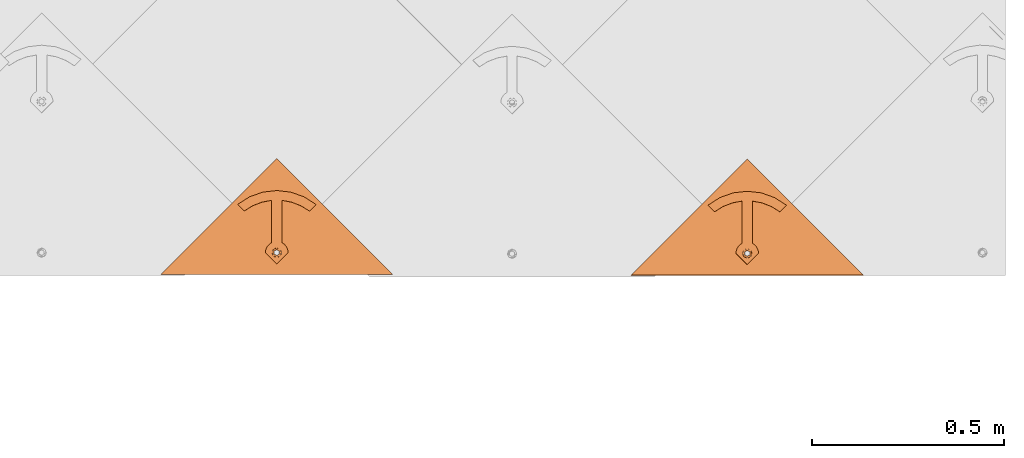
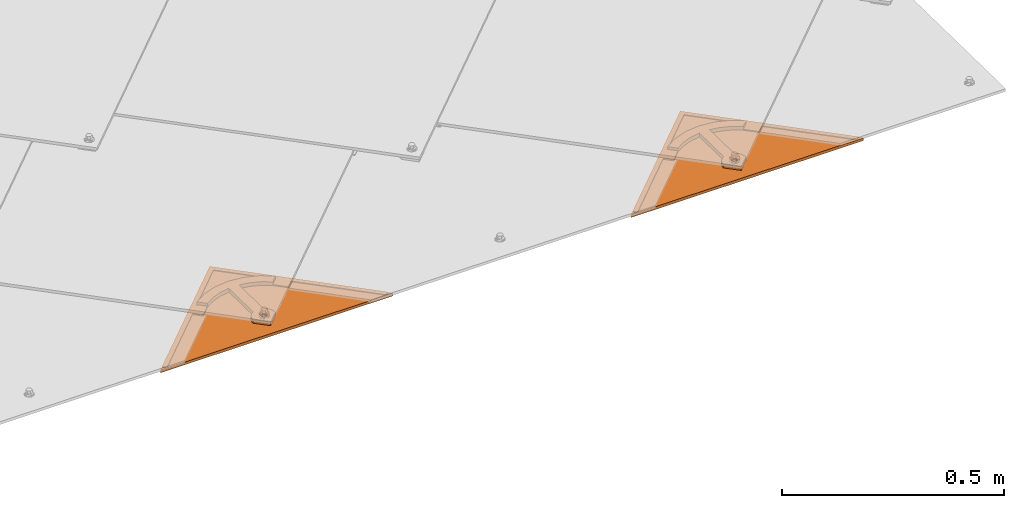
# One storey, part 117 of 151: 2 proxies.
"""IFC2X3 building model written with IfcOpenShell, lengths in millimetres."""

import ifcopenshell
import ifcopenshell.guid

model = None  # the IFC model being written
_history = None  # IfcOwnerHistory: only IFC2X3 demands one
_inside = {}  # id of a spatial element -> (the spatial element, [elements in it])
_under = {}  # id of a project, library or spatial element -> (it, [spatial elements below it])
_declared = {}  # id of a project -> (the project, [libraries it declares])
_typed = {}  # id of a type object -> (the type object, [elements of that type])
_made_of = {}  # id of a material, layer set ... -> (it, [elements and type objects made of it])


def new_model(schema):
    """Start an empty IFC model of exactly this schema.

    Asked for "IFC4X3", IfcOpenShell would pick the latest addendum, in which some entities
    have other attributes; the version numbers below select the first issue.
    IFC2X3 requires an IfcOwnerHistory on every rooted entity: one is made here for all.
    """
    global model, _history
    if schema == "IFC4X3":
        model = ifcopenshell.file(schema_version=(4, 3, 0, 0))
    else:
        model = ifcopenshell.file(schema=schema)
    _inside.clear()
    _under.clear()
    _declared.clear()
    _typed.clear()
    _made_of.clear()
    _history = None
    if model.schema == "IFC2X3":
        org = make("IfcOrganization", Name="unknown")
        user = make(
            "IfcPersonAndOrganization",
            ThePerson=make("IfcPerson", FamilyName="unknown"),
            TheOrganization=org,
        )
        app = make(
            "IfcApplication",
            ApplicationDeveloper=org,
            Version="unknown",
            ApplicationFullName="unknown",
            ApplicationIdentifier="unknown",
        )
        _history = make(
            "IfcOwnerHistory",
            OwningUser=user,
            OwningApplication=app,
            ChangeAction="ADDED",
            CreationDate=0,
        )
    return model


def make(cls, **values):
    """One entity of the class cls with the attributes given. An attribute that is None is left unset."""
    return model.create_entity(
        cls, **{name: value for name, value in values.items() if value is not None}
    )


def entity(cls, *values):
    """Any entity or typed value of the class cls, its attributes in the order of the schema. None: left unset."""
    e = model.create_entity(cls)
    for i, value in enumerate(values):
        if value is not None:
            e[i] = value
    return e


def rooted(cls, **values):
    """An entity with a GlobalId (a new one), such as an element, a storey or a relation."""
    return make(cls, GlobalId=ifcopenshell.guid.new(), OwnerHistory=_history, **values)


def si_unit(unit_type, name, prefix=None):
    """IfcSIUnit, for example si_unit("LENGTHUNIT", "METRE", prefix="MILLI")."""
    return make("IfcSIUnit", UnitType=unit_type, Prefix=prefix, Name=name)


def converted_unit(unit_type, name, factor, base, dimensions=None, offset=None):
    """IfcConversionBasedUnit, such as the inch: factor (a typed value) times the base unit."""
    return make(
        "IfcConversionBasedUnit"
        if offset is None
        else "IfcConversionBasedUnitWithOffset",
        ConversionOffset=offset,
        Dimensions=None
        if dimensions is None
        else entity("IfcDimensionalExponents", *dimensions),
        UnitType=unit_type,
        Name=name,
        ConversionFactor=make(
            "IfcMeasureWithUnit", ValueComponent=factor, UnitComponent=base
        ),
    )


def derived_unit(unit_type, elements):
    """IfcDerivedUnit: a product of units, each with its exponent."""
    return make(
        "IfcDerivedUnit",
        Elements=[
            make("IfcDerivedUnitElement", Unit=unit, Exponent=power)
            for unit, power in elements
        ],
        UnitType=unit_type,
    )


def assignment(units):
    """IfcUnitAssignment: the units of a project."""
    return None if units is None else make("IfcUnitAssignment", Units=units)


def point(xyz):
    """IfcCartesianPoint."""
    return None if xyz is None else make("IfcCartesianPoint", Coordinates=xyz)


def direction(xyz):
    """IfcDirection."""
    return None if xyz is None else make("IfcDirection", DirectionRatios=xyz)


def frame(location, z_axis=None, x_axis=None):
    """IfcAxis2Placement3D, a coordinate frame: its origin and axes. An axis left out is left unset."""
    return make(
        "IfcAxis2Placement3D",
        Location=point(location),
        Axis=direction(z_axis),
        RefDirection=direction(x_axis),
    )


def origin():
    """The frame at (0, 0, 0) with its axes left unset."""
    return frame((0.0, 0.0, 0.0))


def place(relative_to, where):
    """IfcLocalPlacement: puts the frame where relative to a parent placement (None: the world)."""
    return make(
        "IfcLocalPlacement", PlacementRelTo=relative_to, RelativePlacement=where
    )


def context(
    kind, dimensions, precision=None, world=None, true_north=None, identifier=None
):
    """IfcGeometricRepresentationContext, for example the 3D "Model" context."""
    return make(
        "IfcGeometricRepresentationContext",
        ContextIdentifier=identifier,
        ContextType=kind,
        CoordinateSpaceDimension=dimensions,
        Precision=precision,
        WorldCoordinateSystem=world,
        TrueNorth=true_north,
    )


def subcontext(parent, identifier, kind, view, scale=None):
    """IfcGeometricRepresentationSubContext, for example "Body" below "Model"."""
    return make(
        "IfcGeometricRepresentationSubContext",
        ContextIdentifier=identifier,
        ContextType=kind,
        ParentContext=parent,
        TargetScale=scale,
        TargetView=view,
    )


def project(units=None, contexts=None):
    """IfcProject with its units and contexts."""
    return rooted(
        "IfcProject",
        Name="project",
        RepresentationContexts=contexts,
        UnitsInContext=assignment(units),
    )


def spatial(cls, under=None, at=None, **own):
    """A site, building, storey or space (cls), placed at a placement, below another one or the project."""
    s = rooted(cls, ObjectPlacement=at, **own)
    if under is not None:
        _under.setdefault(under.id(), (under, []))[1].append(s)
    return s


def faces_of(points, faces, orient=None, outer=None):
    """IfcFace entities. A face is a list of loops; a loop is a list of indices into points, from 0.

    orient and outer hold one flag for each loop. By default every Orientation is true, the
    first loop of a face is its IfcFaceOuterBound and the others are IfcFaceBound.
    """
    made = []
    for i, loops in enumerate(faces):
        bounds = []
        for j, loop in enumerate(loops):
            is_outer = j == 0 if outer is None else outer[i][j]
            bounds.append(
                make(
                    "IfcFaceOuterBound" if is_outer else "IfcFaceBound",
                    Bound=make("IfcPolyLoop", Polygon=[points[k] for k in loop]),
                    Orientation=True if orient is None else orient[i][j],
                )
            )
        made.append(make("IfcFace", Bounds=bounds))
    return made


def faceted_brep(points, faces, orient=None, outer=None, voids=None):
    """IfcFacetedBrep: a solid bounded by flat faces; with voids (closed shells), ...WithVoids."""
    shared = [point(p) for p in points]
    hull = make("IfcClosedShell", CfsFaces=faces_of(shared, faces, orient, outer))
    if voids is None:
        return make("IfcFacetedBrep", Outer=hull)
    return make(
        "IfcFacetedBrepWithVoids",
        Outer=hull,
        Voids=[
            make(cls, CfsFaces=faces_of(shared, fs, o, b)) for cls, fs, o, b in voids
        ],
    )


def shape(context_of_items, identifier, shape_type, items):
    """IfcShapeRepresentation: the items that make up one representation, for example the "Body"."""
    return make(
        "IfcShapeRepresentation",
        ContextOfItems=context_of_items,
        RepresentationIdentifier=identifier,
        RepresentationType=shape_type,
        Items=items,
    )


def source(mapping_origin, context_of_items, identifier, shape_type, items):
    """IfcRepresentationMap: a shape defined once, which mapped items show again and again."""
    return make(
        "IfcRepresentationMap",
        MappingOrigin=mapping_origin,
        MappedRepresentation=shape(context_of_items, identifier, shape_type, items),
    )


def transform(
    local_origin,
    x_axis=None,
    y_axis=None,
    z_axis=None,
    scale=None,
    scale2=None,
    scale3=None,
    uniform=True,
):
    """IfcCartesianTransformationOperator3D, or its non-uniform kind. x_axis, y_axis, z_axis: its Axis1, 2, 3."""
    if uniform:
        return make(
            "IfcCartesianTransformationOperator3D",
            Axis1=direction(x_axis),
            Axis2=direction(y_axis),
            LocalOrigin=point(local_origin),
            Scale=scale,
            Axis3=direction(z_axis),
        )
    return make(
        "IfcCartesianTransformationOperator3DnonUniform",
        Axis1=direction(x_axis),
        Axis2=direction(y_axis),
        LocalOrigin=point(local_origin),
        Scale=scale,
        Axis3=direction(z_axis),
        Scale2=scale2,
        Scale3=scale3,
    )


def mapped(mapping_source, mapping_target):
    """IfcMappedItem: shows the shape of a source again, moved by a transform."""
    return make(
        "IfcMappedItem", MappingSource=mapping_source, MappingTarget=mapping_target
    )


def material(Name=None, Category=None):
    """IfcMaterial."""
    return make("IfcMaterial", Name=Name, Category=Category)


def material_list(materials):
    """IfcMaterialList."""
    return make("IfcMaterialList", Materials=materials)


def made_of(thing, what):
    """Note that an element or type object is made of a material, layer set ...; save() writes the relation."""
    if what is not None:
        _made_of.setdefault(what.id(), (what, []))[1].append(thing)
    return thing


def type_object(cls, material=None, **own):
    """A type object (cls), such as IfcWallType, which elements share."""
    return made_of(rooted(cls, **own), material)


def type_shapes(of_type, sources):
    """Give a type object the sources (RepresentationMaps) that its elements show as mapped items."""
    of_type.RepresentationMaps = sources


def element(
    cls,
    number,
    at=None,
    inside=None,
    cuts=None,
    type_object=None,
    material=None,
    context=None,
    identifier="Body",
    shape_type=None,
    held_by="IfcProductDefinitionShape",
    body=None,
    shapes=None,
    **own,
):
    """One element of the class cls, such as IfcWall. Its Tag is "e" and its number.

    at: its placement. inside: the storey or other place that contains it. cuts: it is an
    opening in that element (IfcRelVoidsElement). A single representation is given by context,
    identifier, shape_type and body (its items); several are given by shapes. held_by: the class
    of the entity that holds the representations. save() writes the other relations.
    """
    e = rooted(cls, Tag="e%d" % number, ObjectPlacement=at, **own)
    if body is not None:
        shapes = [shape(context, identifier, shape_type, body)]
    if shapes is not None:
        e.Representation = make(held_by, Representations=shapes)
    if inside is not None:
        _inside.setdefault(inside.id(), (inside, []))[1].append(e)
    if cuts is not None:
        rooted(
            "IfcRelVoidsElement", RelatingBuildingElement=cuts, RelatedOpeningElement=e
        )
    if type_object is not None:
        _typed.setdefault(type_object.id(), (type_object, []))[1].append(e)
    return made_of(e, material)


def aggregate(whole, parts):
    """IfcRelAggregates: a whole, such as a stair, and the parts it consists of."""
    return rooted("IfcRelAggregates", RelatingObject=whole, RelatedObjects=parts)


def save(model, path):
    """Write the relations noted so far, then the file.

    IfcRelAggregates (storeys below a building ...), IfcRelContainedInSpatialStructure (elements
    in a storey), IfcRelDefinesByType, IfcRelAssociatesMaterial and IfcRelDeclares: one each for
    every whole, place, type object, material and project.
    """
    for whole, parts in _under.values():
        aggregate(whole, parts)
    for where, things in _inside.values():
        rooted(
            "IfcRelContainedInSpatialStructure",
            RelatedElements=things,
            RelatingStructure=where,
        )
    for kind, things in _typed.values():
        rooted("IfcRelDefinesByType", RelatedObjects=things, RelatingType=kind)
    for what, things in _made_of.values():
        rooted("IfcRelAssociatesMaterial", RelatedObjects=things, RelatingMaterial=what)
    for by, libraries in _declared.values():
        rooted("IfcRelDeclares", RelatingContext=by, RelatedDefinitions=libraries)
    model.write(path)


model = new_model("IFC2X3")

# Units and contexts
model_context = context("Model", 3, precision=0.01, world=origin(), true_north=direction((6.12303176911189e-17, 1.0)))
body_context = subcontext(model_context, "Body", "Model", "MODEL_VIEW")
ifc_project = project(units=[si_unit("LENGTHUNIT", "METRE", prefix="MILLI"), si_unit("AREAUNIT", "SQUARE_METRE"), si_unit("VOLUMEUNIT", "CUBIC_METRE"), converted_unit("PLANEANGLEUNIT", "DEGREE", entity("IfcRatioMeasure", 0.0174532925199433), si_unit("PLANEANGLEUNIT", "RADIAN"), dimensions=[0, 0, 0, 0, 0, 0, 0]), si_unit("MASSUNIT", "GRAM", prefix="KILO"), derived_unit("MASSDENSITYUNIT", [(si_unit("MASSUNIT", "GRAM", prefix="KILO"), 1), (si_unit("LENGTHUNIT", "METRE"), -3)]), si_unit("TIMEUNIT", "SECOND"), si_unit("FREQUENCYUNIT", "HERTZ"), si_unit("THERMODYNAMICTEMPERATUREUNIT", "DEGREE_CELSIUS"), derived_unit("THERMALTRANSMITTANCEUNIT", [(si_unit("MASSUNIT", "GRAM", prefix="KILO"), 1), (si_unit("THERMODYNAMICTEMPERATUREUNIT", "KELVIN"), -1), (si_unit("TIMEUNIT", "SECOND"), -3)]), derived_unit("VOLUMETRICFLOWRATEUNIT", [(si_unit("LENGTHUNIT", "METRE"), 3), (si_unit("TIMEUNIT", "SECOND"), -1)]), si_unit("ELECTRICCURRENTUNIT", "AMPERE"), si_unit("ELECTRICVOLTAGEUNIT", "VOLT"), si_unit("POWERUNIT", "WATT"), si_unit("FORCEUNIT", "NEWTON", prefix="KILO"), si_unit("ILLUMINANCEUNIT", "LUX"), si_unit("LUMINOUSFLUXUNIT", "LUMEN"), si_unit("LUMINOUSINTENSITYUNIT", "CANDELA"), derived_unit("USERDEFINED", [(si_unit("MASSUNIT", "GRAM", prefix="KILO"), -1), (si_unit("LENGTHUNIT", "METRE"), -2), (si_unit("TIMEUNIT", "SECOND"), 3), (si_unit("LUMINOUSFLUXUNIT", "LUMEN"), 1)]), derived_unit("LINEARVELOCITYUNIT", [(si_unit("LENGTHUNIT", "METRE"), 1), (si_unit("TIMEUNIT", "SECOND"), -1)]), si_unit("PRESSUREUNIT", "PASCAL"), derived_unit("USERDEFINED", [(si_unit("LENGTHUNIT", "METRE"), -2), (si_unit("MASSUNIT", "GRAM", prefix="KILO"), 1), (si_unit("TIMEUNIT", "SECOND"), -2)])], contexts=[model_context])

# Site, building, storey
site_placement = place(None, origin())
site = spatial("IfcSite", under=ifc_project, at=site_placement, Name="Default", CompositionType="ELEMENT")
building_placement = place(site_placement, origin())
building = spatial("IfcBuilding", under=site, at=building_placement, CompositionType="ELEMENT")
storey_placement = place(building_placement, origin())
storey = spatial("IfcBuildingStorey", under=building, at=storey_placement, Name="Level 1", CompositionType="ELEMENT", Elevation=0.0)

# Proxies
ifc_material_1 = material(Name="Rubber - Sunstyle - Black")
ifc_material_2 = material(Name="Glass - Sunstyle - Tainted Black")
ifc_material_list_1 = material_list([ifc_material_1, ifc_material_2])
ifc_material_list_2 = material_list([ifc_material_1, ifc_material_2])
building_element_proxy_type = type_object("IfcBuildingElementProxyType", Name="Shingle Bottom Small - Black", PredefinedType="NOTDEFINED", material=ifc_material_list_2)
shared_shape = source(origin(), body_context, "Body", "Brep", [
    faceted_brep([(302.08842791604, 44.9093317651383, 22.0558382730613), (302.08842791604, 49.408700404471, 21.980485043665), (293.484723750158, 48.4726030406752, 21.9961623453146), (310.692132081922, 48.4726030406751, 21.9961623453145), (308.728656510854, 53.2419006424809, 21.9162884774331), (314.255903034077, 57.0751008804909, 21.8520919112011), (308.728656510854, 60.9083011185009, 21.7878953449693), (310.692132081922, 65.6775987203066, 21.7080214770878), (302.08842791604, 64.7415013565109, 21.7236987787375), (302.08842791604, 69.2408699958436, 21.6483455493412), (293.484723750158, 65.6775987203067, 21.708021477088), (295.448199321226, 60.908301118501, 21.7878953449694), (289.920952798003, 57.0751008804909, 21.8520919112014), (295.448199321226, 53.2419006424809, 21.9162884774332), (295.448199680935, 60.6403782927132, 5.79013870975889), (302.08842791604, 64.473578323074, 5.72594214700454), (295.448199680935, 52.9739782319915, 5.91853183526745), (302.08842791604, 49.1407782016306, 5.98272839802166), (308.728656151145, 52.9739782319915, 5.91853183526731), (308.728656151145, 60.6403782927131, 5.79013870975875), (293.484723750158, 48.2046804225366, 5.99840570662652), (302.08842791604, 44.6414091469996, 6.05808163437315), (289.920952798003, 56.8071782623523, 5.85433527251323), (293.484723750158, 65.4096761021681, 5.71026483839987), (302.08842791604, 68.972947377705, 5.65058891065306), (310.692132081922, 65.409676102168, 5.71026483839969), (314.255903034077, 56.8071782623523, 5.85433527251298), (310.692132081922, 48.2046804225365, 5.99840570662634)], [[[0, 1, 2]], [[1, 0, 3]], [[3, 4, 1]], [[4, 3, 5]], [[6, 4, 5]], [[5, 7, 6]], [[7, 8, 6]], [[8, 7, 9]], [[8, 9, 10]], [[10, 11, 8]], [[12, 11, 10]], [[2, 13, 12]], [[12, 13, 11]], [[13, 2, 1]], [[8, 11, 14, 15]], [[11, 13, 16, 14]], [[13, 1, 17, 16]], [[1, 4, 18, 17]], [[4, 6, 19, 18]], [[6, 8, 15, 19]], [[20, 17, 21]], [[17, 20, 16]], [[22, 16, 20]], [[14, 16, 22]], [[23, 14, 22]], [[15, 14, 23]], [[23, 24, 15]], [[24, 25, 15]], [[19, 15, 25]], [[19, 25, 26]], [[26, 18, 19]], [[26, 27, 18]], [[17, 18, 27]], [[27, 21, 17]], [[24, 23, 10, 9]], [[10, 23, 22, 12]], [[20, 21, 0, 2]], [[20, 2, 12, 22]], [[21, 27, 3, 0]], [[3, 27, 26, 5]], [[25, 24, 9, 7]], [[25, 7, 5, 26]]]),
    faceted_brep([(587.35835892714, 0.0, 12.5593198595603), (595.843045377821, 8.4846864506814, 12.4172224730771), (595.843045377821, 8.50980419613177, 13.9170121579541), (587.35835892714, 0.0251177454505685, 14.0591095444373), (302.088750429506, 285.189618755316, 7.7831033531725), (16.8191419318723, 0.0, 12.5593198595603), (8.33445548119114, 8.48468645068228, 12.4172224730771), (302.088750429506, 302.156612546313, 7.49894842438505), (302.088750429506, 302.181730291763, 8.9987381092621), (8.33445548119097, 8.50980419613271, 13.9170121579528), (16.8191419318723, 0.0251177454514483, 14.0591095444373), (302.088750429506, 285.214736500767, 9.28289303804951)], [[[0, 1, 2, 3]], [[1, 0, 4, 5, 6, 7]], [[2, 1, 7, 8]], [[3, 2, 8, 9, 10, 11]], [[0, 3, 11, 4]], [[5, 10, 9, 6]], [[8, 7, 6, 9]], [[4, 11, 10, 5]]]),
    faceted_brep([(302.088750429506, 302.156612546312, 7.49894842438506), (305.194256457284, 68.3255429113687, 11.4150370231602), (308.088427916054, 67.1269059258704, 11.4351112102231), (302.088427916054, 68.7343756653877, 11.4081900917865), (310.573709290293, 65.2201498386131, 11.4670446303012), (298.982599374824, 68.3255429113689, 11.4150370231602), (296.088427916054, 67.1269059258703, 11.4351112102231), (293.603146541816, 65.2201498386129, 11.4670446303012), (312.480732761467, 62.7352169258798, 11.5086610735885), (604.177500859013, 0.152567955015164, 12.5567647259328), (291.696123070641, 62.7352169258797, 11.5086610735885), (0.0, 0.152567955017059, 12.5567647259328), (290.497318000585, 59.8414512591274, 11.5571244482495), (290.088427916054, 56.7360581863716, 11.6091320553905), (290.497318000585, 53.6306651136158, 11.6611396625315), (291.696123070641, 50.7368994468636, 11.7096030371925), (293.603146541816, 48.2519665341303, 11.7512194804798), (296.088427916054, 46.3452104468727, 11.7831529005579), (298.982599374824, 45.1465734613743, 11.8032270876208), (302.088427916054, 44.7377407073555, 11.8100740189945), (313.679537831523, 59.8414512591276, 11.5571244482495), (314.088427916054, 56.7360581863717, 11.6091320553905), (313.679537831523, 53.6306651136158, 11.6611396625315), (312.480732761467, 50.7368994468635, 11.7096030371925), (310.573709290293, 48.2519665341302, 11.7512194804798), (308.088427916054, 46.3452104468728, 11.7831529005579), (305.194256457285, 45.1465734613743, 11.8032270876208), (0.0, 0.0269792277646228, 5.0578163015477), (290.088427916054, 56.6104694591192, 4.11018363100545), (290.497318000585, 53.5050763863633, 4.16219123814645), (290.497318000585, 59.7158625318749, 4.05817602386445), (291.696123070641, 50.6113107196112, 4.21065461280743), (291.696123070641, 62.6096281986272, 4.00971264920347), (302.088750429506, 302.031023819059, 0.0), (293.603146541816, 48.1263778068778, 4.25227105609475), (296.088427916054, 46.2196217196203, 4.28420447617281), (298.982599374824, 45.0209847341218, 4.30427866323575), (302.088427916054, 44.612151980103, 4.31112559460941), (604.177500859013, 0.0269792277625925, 5.05781630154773), (293.603146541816, 65.0945611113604, 3.96809620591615), (296.088427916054, 67.0013171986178, 3.93616278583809), (298.982599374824, 68.1999541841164, 3.91608859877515), (302.088427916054, 68.6087869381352, 3.90924166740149), (305.194256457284, 68.1999541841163, 3.91608859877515), (308.088427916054, 67.0013171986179, 3.93616278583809), (310.573709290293, 65.0945611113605, 3.96809620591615), (312.480732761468, 62.6096281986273, 4.00971264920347), (305.194256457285, 45.0209847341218, 4.30427866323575), (308.088427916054, 46.2196217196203, 4.28420447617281), (313.679537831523, 59.7158625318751, 4.05817602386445), (314.088427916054, 56.6104694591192, 4.11018363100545), (313.679537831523, 53.5050763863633, 4.16219123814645), (312.480732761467, 50.611310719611, 4.21065461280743), (310.573709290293, 48.1263778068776, 4.25227105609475)], [[[0, 1, 2]], [[1, 0, 3]], [[0, 2, 4]], [[5, 3, 0]], [[6, 5, 0]], [[0, 7, 6]], [[8, 0, 4]], [[0, 8, 9]], [[7, 0, 10]], [[0, 11, 10]], [[12, 10, 11]], [[11, 13, 12]], [[13, 11, 14]], [[15, 14, 11]], [[11, 16, 15]], [[17, 16, 11]], [[17, 11, 18]], [[19, 18, 11]], [[19, 11, 9]], [[9, 8, 20]], [[20, 21, 9]], [[21, 22, 9]], [[22, 23, 9]], [[9, 23, 24]], [[24, 25, 9]], [[25, 26, 9]], [[9, 26, 19]], [[27, 28, 29]], [[28, 27, 30]], [[27, 29, 31]], [[32, 30, 27]], [[32, 27, 33]], [[31, 34, 27]], [[34, 35, 27]], [[35, 36, 27]], [[36, 37, 27]], [[27, 37, 38]], [[33, 39, 32]], [[40, 39, 33]], [[41, 40, 33]], [[42, 41, 33]], [[33, 43, 42]], [[43, 33, 44]], [[45, 44, 33]], [[33, 46, 45]], [[46, 33, 38]], [[38, 37, 47]], [[47, 48, 38]], [[49, 46, 38]], [[38, 50, 49]], [[50, 38, 51]], [[52, 51, 38]], [[53, 52, 38]], [[53, 38, 48]], [[11, 0, 33, 27]], [[0, 9, 38, 33]], [[13, 28, 30, 12]], [[12, 30, 32, 10]], [[6, 7, 39, 40]], [[39, 7, 10, 32]], [[5, 6, 40, 41]], [[5, 41, 42, 3]], [[3, 42, 43, 1]], [[1, 43, 44, 2]], [[8, 4, 45, 46]], [[45, 4, 2, 44]], [[20, 8, 46, 49]], [[20, 49, 50, 21]], [[21, 50, 51, 22]], [[22, 51, 52, 23]], [[25, 24, 53, 48]], [[53, 24, 23, 52]], [[26, 25, 48, 47]], [[26, 47, 37, 19]], [[19, 37, 36, 18]], [[18, 36, 35, 17]], [[15, 16, 34, 31]], [[34, 16, 17, 35]], [[14, 15, 31, 29]], [[14, 29, 28, 13]], [[9, 11, 27, 38]]]),
    faceted_brep([(190.819384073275, 138.646056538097, 12.7376939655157), (217.144031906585, 164.967013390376, 12.2968834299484), (200.060856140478, 182.04779392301, 12.0108228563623), (193.80845410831, 176.686146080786, 12.100617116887), (187.837458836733, 171.012871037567, 12.1956303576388), (173.141714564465, 156.321247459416, 12.4416784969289), (431.035141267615, 156.321247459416, 12.4416784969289), (416.339396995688, 171.012871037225, 12.1956303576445), (410.36840172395, 176.686146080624, 12.1006171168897), (404.115999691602, 182.047793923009, 12.0108228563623), (387.031626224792, 164.968210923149, 12.2968633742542), (413.357471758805, 138.646056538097, 12.7376939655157), (296.088427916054, 67.294357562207, 21.4337091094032), (288.788427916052, 83.1076295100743, 21.1688761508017), (283.384321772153, 79.569581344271, 21.2281296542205), (293.603146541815, 65.3876014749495, 21.4656425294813), (298.982599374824, 68.4929945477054, 21.4136349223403), (302.088427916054, 68.9018273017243, 21.4067879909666), (315.388427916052, 83.107629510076, 21.1688761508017), (305.194256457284, 68.4929945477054, 21.4136349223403), (308.088427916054, 67.2943575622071, 21.4337091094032), (320.792534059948, 79.5695813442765, 21.2281296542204), (310.573709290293, 65.3876014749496, 21.4656425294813), (325.293078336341, 74.9365758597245, 21.3057209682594), (312.480732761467, 62.9026685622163, 21.5072589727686), (328.672647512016, 69.4324252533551, 21.3979017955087), (313.679537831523, 60.0089028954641, 21.5557223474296), (330.767980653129, 63.323025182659, 21.500219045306), (314.088427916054, 56.9035098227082, 21.6077299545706), (331.477855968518, 56.9035098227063, 21.6077299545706), (313.679537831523, 53.7981167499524, 21.6597375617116), (312.480732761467, 50.9043510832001, 21.7082009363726), (310.573709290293, 48.4194181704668, 21.7498173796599), (302.08842791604, 27.5182024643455, 22.0998607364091), (308.088427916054, 46.5126620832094, 21.7817507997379), (305.194256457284, 45.314025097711, 21.8018249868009), (302.088427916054, 44.9051923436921, 21.8086719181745), (298.982599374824, 45.314025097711, 21.8018249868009), (296.088427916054, 46.5126620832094, 21.7817507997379), (293.603146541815, 48.4194181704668, 21.7498173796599), (272.69899986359, 56.903509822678, 21.6077299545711), (291.696123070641, 50.9043510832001, 21.7082009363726), (290.497318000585, 53.7981167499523, 21.6597375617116), (290.088427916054, 56.9035098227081, 21.6077299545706), (273.408875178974, 63.3230251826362, 21.5002190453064), (290.497318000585, 60.008902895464, 21.5557223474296), (275.504208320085, 69.4324252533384, 21.397901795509), (291.696123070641, 62.9026685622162, 21.5072589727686), (278.883777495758, 74.9365758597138, 21.3057209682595), (288.788427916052, 192.984512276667, 19.3287117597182), (315.388427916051, 192.984512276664, 19.3287117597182), (302.088427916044, 218.456125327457, 18.9021256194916), (338.579268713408, 214.282159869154, 18.9720291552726), (340.858170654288, 188.169632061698, 19.4093490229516), (373.184513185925, 201.975945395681, 19.1781276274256), (365.012761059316, 178.765998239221, 19.5668364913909), (404.115999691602, 182.173382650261, 19.5097712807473), (387.032823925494, 165.092602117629, 19.7958318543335), (265.59758711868, 214.28215986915, 18.9720291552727), (263.318685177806, 188.169632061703, 19.4093490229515), (230.992342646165, 201.975945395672, 19.1781276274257), (239.164094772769, 178.765998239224, 19.5668364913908), (200.06085614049, 182.173382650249, 19.5097712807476), (217.144031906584, 165.092602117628, 19.7958318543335), (302.08842791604, 27.3507508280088, 12.1012628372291), (302.088427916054, 44.7377407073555, 11.8100740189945), (305.194256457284, 45.1465734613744, 11.8032270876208), (298.982599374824, 45.1465734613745, 11.8032270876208), (308.088427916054, 46.3452104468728, 11.7831529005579), (310.573709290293, 48.2519665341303, 11.7512194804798), (331.477855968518, 56.7360581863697, 11.6091320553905), (296.088427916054, 46.3452104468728, 11.7831529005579), (293.603146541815, 48.2519665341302, 11.7512194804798), (272.69899986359, 56.7360581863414, 11.609132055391), (291.696123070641, 50.7368994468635, 11.7096030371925), (290.497318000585, 53.6306651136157, 11.6611396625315), (290.088427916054, 56.7360581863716, 11.6091320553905), (273.408875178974, 63.1555735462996, 11.5016211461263), (290.497318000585, 59.8414512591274, 11.5571244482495), (275.504208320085, 69.2649736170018, 11.3993038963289), (291.696123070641, 62.7352169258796, 11.5086610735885), (278.883777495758, 74.7691242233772, 11.3071230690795), (293.603146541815, 65.2201498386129, 11.4670446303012), (283.384321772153, 79.4021297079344, 11.2295317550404), (296.088427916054, 67.1269059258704, 11.4351112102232), (288.788427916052, 82.9401778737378, 11.1702782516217), (298.982599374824, 68.3255429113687, 11.4150370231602), (302.088427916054, 68.7343756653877, 11.4081900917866), (315.388427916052, 82.9401778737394, 11.1702782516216), (288.788427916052, 192.81706064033, 9.33011386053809), (315.388427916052, 192.817060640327, 9.33011386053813), (302.088427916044, 218.28867369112, 8.90352772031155), (265.59758711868, 214.114708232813, 8.97343125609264), (263.318685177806, 188.002180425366, 9.41075112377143), (230.992342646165, 201.808493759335, 9.17952972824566), (239.164094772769, 178.598546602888, 9.56823859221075), (200.06085614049, 182.005931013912, 9.51117338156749), (217.145229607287, 164.926348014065, 9.79721389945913), (193.80845410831, 176.644283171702, 9.60096764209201), (187.837458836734, 170.971008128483, 9.69598088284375), (190.819384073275, 138.604193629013, 10.2380444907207), (173.141714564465, 156.279384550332, 9.94202902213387), (338.579268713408, 214.114708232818, 8.97343125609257), (340.858170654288, 188.002180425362, 9.41075112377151), (373.184513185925, 201.808493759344, 9.17952972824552), (365.012761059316, 178.598546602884, 9.5682385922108), (404.115999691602, 182.005931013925, 9.51117338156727), (387.032823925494, 164.925150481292, 9.79723395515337), (410.36840172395, 176.64428317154, 9.60096764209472), (416.339396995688, 170.971008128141, 9.69598088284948), (413.357471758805, 138.604193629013, 10.2380444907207), (431.035141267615, 156.279384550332, 9.94202902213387), (305.194256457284, 68.3255429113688, 11.4150370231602), (308.088427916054, 67.1269059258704, 11.4351112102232), (320.792534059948, 79.4021297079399, 11.2295317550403), (310.573709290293, 65.220149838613, 11.4670446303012), (325.293078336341, 74.7691242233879, 11.3071230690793), (312.480732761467, 62.7352169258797, 11.5086610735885), (328.672647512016, 69.2649736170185, 11.3993038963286), (313.679537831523, 59.8414512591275, 11.5571244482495), (330.767980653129, 63.1555735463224, 11.5016211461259), (314.088427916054, 56.7360581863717, 11.6091320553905), (312.480732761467, 50.7368994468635, 11.7096030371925), (313.679537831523, 53.6306651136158, 11.6611396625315)], [[[0, 1, 2, 3, 4, 5]], [[6, 7, 8, 9, 10, 11]], [[12, 13, 14]], [[12, 14, 15]], [[16, 13, 12]], [[17, 13, 16]], [[18, 13, 17]], [[17, 19, 18]], [[19, 20, 18]], [[20, 21, 18]], [[21, 20, 22]], [[21, 22, 23]], [[24, 23, 22]], [[23, 24, 25]], [[24, 26, 25]], [[27, 25, 26]], [[26, 28, 27]], [[29, 27, 28]], [[28, 30, 29]], [[30, 31, 29]], [[29, 31, 32]], [[32, 33, 29]], [[32, 34, 33]], [[35, 33, 34]], [[36, 33, 35]], [[33, 36, 37]], [[38, 33, 37]], [[38, 39, 33]], [[40, 33, 39]], [[41, 40, 39]], [[41, 42, 40]], [[42, 43, 40]], [[43, 44, 40]], [[45, 44, 43]], [[45, 46, 44]], [[45, 47, 46]], [[48, 46, 47]], [[48, 47, 15]], [[48, 15, 14]], [[18, 49, 13]], [[50, 49, 18]], [[51, 49, 50]], [[50, 52, 51]], [[50, 53, 52]], [[52, 53, 54]], [[53, 55, 54]], [[56, 54, 55]], [[57, 56, 55]], [[58, 49, 51]], [[49, 58, 59]], [[60, 59, 58]], [[60, 61, 59]], [[61, 60, 62]], [[62, 63, 61]], [[64, 65, 66]], [[65, 64, 67]], [[64, 66, 68]], [[68, 69, 64]], [[64, 69, 70]], [[71, 67, 64]], [[71, 64, 72]], [[72, 64, 73]], [[73, 74, 72]], [[74, 73, 75]], [[75, 73, 76]], [[77, 76, 73]], [[76, 77, 78]], [[78, 77, 79]], [[80, 78, 79]], [[81, 80, 79]], [[82, 80, 81]], [[83, 82, 81]], [[83, 84, 82]], [[85, 84, 83]], [[85, 86, 84]], [[87, 86, 85]], [[88, 87, 85]], [[89, 88, 85]], [[88, 89, 90]], [[89, 91, 90]], [[91, 89, 92]], [[93, 92, 89]], [[92, 93, 94]], [[95, 94, 93]], [[96, 94, 95]], [[95, 97, 96]], [[97, 98, 96]], [[98, 97, 99]], [[97, 100, 99]], [[99, 100, 101]], [[90, 91, 102]], [[103, 90, 102]], [[103, 102, 104]], [[105, 103, 104]], [[106, 105, 104]], [[107, 105, 106]], [[106, 108, 107]], [[109, 107, 108]], [[110, 107, 109]], [[109, 111, 110]], [[112, 87, 88]], [[113, 112, 88]], [[114, 113, 88]], [[115, 113, 114]], [[115, 114, 116]], [[116, 117, 115]], [[117, 116, 118]], [[118, 119, 117]], [[120, 119, 118]], [[121, 120, 70]], [[120, 121, 119]], [[70, 69, 122]], [[122, 123, 70]], [[123, 121, 70]], [[13, 49, 89, 85]], [[14, 13, 85, 83]], [[48, 14, 83, 81]], [[81, 79, 46, 48]], [[44, 46, 79, 77]], [[40, 44, 77, 73]], [[33, 40, 73, 64]], [[0, 5, 101, 100]], [[29, 33, 64, 70]], [[6, 11, 110, 111]], [[27, 29, 70, 120]], [[25, 27, 120, 118]], [[118, 116, 23, 25]], [[21, 23, 116, 114]], [[18, 21, 114, 88]], [[50, 18, 88, 90]], [[9, 106, 104, 54, 56]], [[52, 54, 104, 102]], [[51, 52, 102, 91]], [[58, 51, 91, 92]], [[94, 96, 2, 62, 60]], [[60, 58, 92, 94]], [[43, 76, 78, 45]], [[45, 78, 80, 47]], [[12, 15, 82, 84]], [[80, 82, 15, 47]], [[16, 12, 84, 86]], [[87, 17, 16, 86]], [[19, 112, 113, 20]], [[20, 113, 115, 22]], [[26, 24, 117, 119]], [[115, 117, 24, 22]], [[28, 26, 119, 121]], [[19, 17, 87, 112]], [[28, 121, 123, 30]], [[30, 123, 122, 31]], [[34, 32, 69, 68]], [[122, 69, 32, 31]], [[35, 34, 68, 66]], [[65, 36, 35, 66]], [[37, 67, 71, 38]], [[38, 71, 72, 39]], [[42, 41, 74, 75]], [[72, 74, 41, 39]], [[43, 42, 75, 76]], [[37, 36, 65, 67]], [[7, 6, 111, 109]], [[7, 109, 108, 8]], [[108, 106, 9, 8]], [[11, 10, 107, 110]], [[1, 0, 100, 97]], [[2, 96, 98, 3]], [[98, 99, 4, 3]], [[5, 4, 99, 101]], [[63, 62, 2, 1]], [[56, 57, 10]], [[10, 9, 56]], [[1, 95, 61, 63]], [[1, 97, 95]], [[93, 89, 49, 59]], [[95, 93, 59, 61]], [[90, 103, 53, 50]], [[103, 105, 55, 53]], [[10, 57, 55]], [[107, 10, 105]], [[55, 105, 10]]]),
])
type_shapes(building_element_proxy_type, [shared_shape])
proxy_1_placement = place(storey_placement, frame((-18066.5130429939, 14524.6118609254, -1.73631824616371)))
element("IfcBuildingElementProxy", 1, at=proxy_1_placement, inside=storey, type_object=building_element_proxy_type, material=ifc_material_list_1, Name="Roofing_Panels_SunStyle_Tile_Shingle-Bottom-Small:Shingle Bottom Small - Black", ObjectType="Roofing_Panels_SunStyle_Tile_Shingle-Bottom-Small:Shingle Bottom Small - Black", context=body_context, shape_type="MappedRepresentation", body=[
    mapped(shared_shape, transform((0.0, 0.0, 0.0), scale=1.0)),
])
ifc_material_list_3 = material_list([ifc_material_1, ifc_material_2])
proxy_2_placement = place(storey_placement, frame((-16843.5509827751, 14522.7203710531, -1.73631824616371)))
element("IfcBuildingElementProxy", 2, at=proxy_2_placement, inside=storey, type_object=building_element_proxy_type, material=ifc_material_list_3, Name="Roofing_Panels_SunStyle_Tile_Shingle-Bottom-Small:Shingle Bottom Small - Black", ObjectType="Roofing_Panels_SunStyle_Tile_Shingle-Bottom-Small:Shingle Bottom Small - Black", context=body_context, shape_type="MappedRepresentation", body=[
    mapped(shared_shape, transform((0.0, 0.0, 0.0), scale=1.0)),
])

save(model, "model.ifc")
